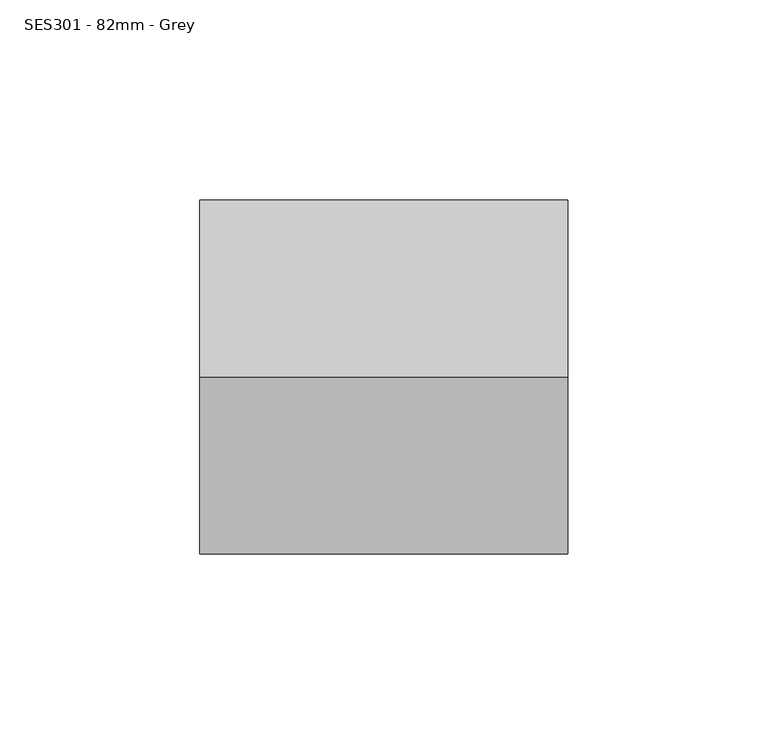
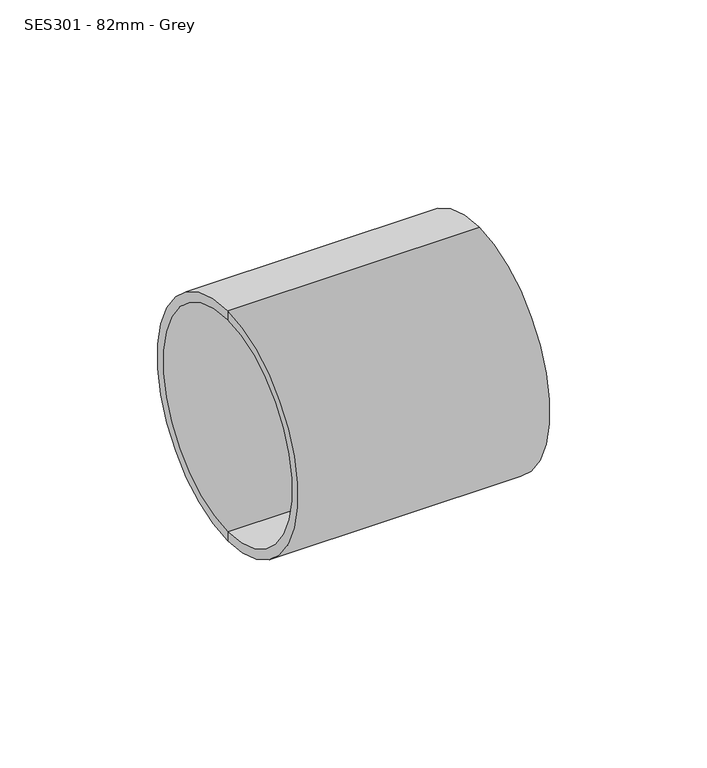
"""IFC4 building model written with IfcOpenShell, lengths in millimetres: pipe fitting geometry, MarleyPlumbingAndDrainage_PipeFitting_DoubleSolventCoupling : SES301 - 82mm - Grey."""

import ifcopenshell
import ifcopenshell.guid

model = None  # the IFC model being written
_history = None  # IfcOwnerHistory: only IFC2X3 demands one
_inside = {}  # id of a spatial element -> (the spatial element, [elements in it])
_under = {}  # id of a project, library or spatial element -> (it, [spatial elements below it])
_declared = {}  # id of a project -> (the project, [libraries it declares])
_typed = {}  # id of a type object -> (the type object, [elements of that type])
_made_of = {}  # id of a material, layer set ... -> (it, [elements and type objects made of it])


def new_model(schema):
    """Start an empty IFC model of exactly this schema.

    Asked for "IFC4X3", IfcOpenShell would pick the latest addendum, in which some entities
    have other attributes; the version numbers below select the first issue.
    IFC2X3 requires an IfcOwnerHistory on every rooted entity: one is made here for all.
    """
    global model, _history
    if schema == "IFC4X3":
        model = ifcopenshell.file(schema_version=(4, 3, 0, 0))
    else:
        model = ifcopenshell.file(schema=schema)
    _inside.clear()
    _under.clear()
    _declared.clear()
    _typed.clear()
    _made_of.clear()
    _history = None
    if model.schema == "IFC2X3":
        org = make("IfcOrganization", Name="unknown")
        user = make(
            "IfcPersonAndOrganization",
            ThePerson=make("IfcPerson", FamilyName="unknown"),
            TheOrganization=org,
        )
        app = make(
            "IfcApplication",
            ApplicationDeveloper=org,
            Version="unknown",
            ApplicationFullName="unknown",
            ApplicationIdentifier="unknown",
        )
        _history = make(
            "IfcOwnerHistory",
            OwningUser=user,
            OwningApplication=app,
            ChangeAction="ADDED",
            CreationDate=0,
        )
    return model


def make(cls, **values):
    """One entity of the class cls with the attributes given. An attribute that is None is left unset."""
    return model.create_entity(
        cls, **{name: value for name, value in values.items() if value is not None}
    )


def rooted(cls, **values):
    """An entity with a GlobalId (a new one), such as an element, a storey or a relation."""
    return make(cls, GlobalId=ifcopenshell.guid.new(), OwnerHistory=_history, **values)


def si_unit(unit_type, name, prefix=None):
    """IfcSIUnit, for example si_unit("LENGTHUNIT", "METRE", prefix="MILLI")."""
    return make("IfcSIUnit", UnitType=unit_type, Prefix=prefix, Name=name)


def assignment(units):
    """IfcUnitAssignment: the units of a project."""
    return None if units is None else make("IfcUnitAssignment", Units=units)


def point(xyz):
    """IfcCartesianPoint."""
    return None if xyz is None else make("IfcCartesianPoint", Coordinates=xyz)


def direction(xyz):
    """IfcDirection."""
    return None if xyz is None else make("IfcDirection", DirectionRatios=xyz)


def frame(location, z_axis=None, x_axis=None):
    """IfcAxis2Placement3D, a coordinate frame: its origin and axes. An axis left out is left unset."""
    return make(
        "IfcAxis2Placement3D",
        Location=point(location),
        Axis=direction(z_axis),
        RefDirection=direction(x_axis),
    )


def origin():
    """The frame at (0, 0, 0) with its axes left unset."""
    return frame((0.0, 0.0, 0.0))


def place(relative_to, where):
    """IfcLocalPlacement: puts the frame where relative to a parent placement (None: the world)."""
    return make(
        "IfcLocalPlacement", PlacementRelTo=relative_to, RelativePlacement=where
    )


def context(
    kind, dimensions, precision=None, world=None, true_north=None, identifier=None
):
    """IfcGeometricRepresentationContext, for example the 3D "Model" context."""
    return make(
        "IfcGeometricRepresentationContext",
        ContextIdentifier=identifier,
        ContextType=kind,
        CoordinateSpaceDimension=dimensions,
        Precision=precision,
        WorldCoordinateSystem=world,
        TrueNorth=true_north,
    )


def project(units=None, contexts=None):
    """IfcProject with its units and contexts."""
    return rooted(
        "IfcProject",
        Name="project",
        RepresentationContexts=contexts,
        UnitsInContext=assignment(units),
    )


def spatial(cls, under=None, at=None, **own):
    """A site, building, storey or space (cls), placed at a placement, below another one or the project."""
    s = rooted(cls, ObjectPlacement=at, **own)
    if under is not None:
        _under.setdefault(under.id(), (under, []))[1].append(s)
    return s


def polyline(points):
    """IfcPolyline through the points."""
    return make("IfcPolyline", Points=[point(p) for p in points])


def circle_curve(where, radius):
    """IfcCircle in the frame where."""
    return make("IfcCircle", Position=where, Radius=radius)


def shape(context_of_items, identifier, shape_type, items):
    """IfcShapeRepresentation: the items that make up one representation, for example the "Body"."""
    return make(
        "IfcShapeRepresentation",
        ContextOfItems=context_of_items,
        RepresentationIdentifier=identifier,
        RepresentationType=shape_type,
        Items=items,
    )


def source(mapping_origin, context_of_items, identifier, shape_type, items):
    """IfcRepresentationMap: a shape defined once, which mapped items show again and again."""
    return make(
        "IfcRepresentationMap",
        MappingOrigin=mapping_origin,
        MappedRepresentation=shape(context_of_items, identifier, shape_type, items),
    )


def transform(
    local_origin,
    x_axis=None,
    y_axis=None,
    z_axis=None,
    scale=None,
    scale2=None,
    scale3=None,
    uniform=True,
):
    """IfcCartesianTransformationOperator3D, or its non-uniform kind. x_axis, y_axis, z_axis: its Axis1, 2, 3."""
    if uniform:
        return make(
            "IfcCartesianTransformationOperator3D",
            Axis1=direction(x_axis),
            Axis2=direction(y_axis),
            LocalOrigin=point(local_origin),
            Scale=scale,
            Axis3=direction(z_axis),
        )
    return make(
        "IfcCartesianTransformationOperator3DnonUniform",
        Axis1=direction(x_axis),
        Axis2=direction(y_axis),
        LocalOrigin=point(local_origin),
        Scale=scale,
        Axis3=direction(z_axis),
        Scale2=scale2,
        Scale3=scale3,
    )


def mapped(mapping_source, mapping_target):
    """IfcMappedItem: shows the shape of a source again, moved by a transform."""
    return make(
        "IfcMappedItem", MappingSource=mapping_source, MappingTarget=mapping_target
    )


def made_of(thing, what):
    """Note that an element or type object is made of a material, layer set ...; save() writes the relation."""
    if what is not None:
        _made_of.setdefault(what.id(), (what, []))[1].append(thing)
    return thing


def element(
    cls,
    number,
    at=None,
    inside=None,
    cuts=None,
    type_object=None,
    material=None,
    context=None,
    identifier="Body",
    shape_type=None,
    held_by="IfcProductDefinitionShape",
    body=None,
    shapes=None,
    **own,
):
    """One element of the class cls, such as IfcWall. Its Tag is "e" and its number.

    at: its placement. inside: the storey or other place that contains it. cuts: it is an
    opening in that element (IfcRelVoidsElement). A single representation is given by context,
    identifier, shape_type and body (its items); several are given by shapes. held_by: the class
    of the entity that holds the representations. save() writes the other relations.
    """
    e = rooted(cls, Tag="e%d" % number, ObjectPlacement=at, **own)
    if body is not None:
        shapes = [shape(context, identifier, shape_type, body)]
    if shapes is not None:
        e.Representation = make(held_by, Representations=shapes)
    if inside is not None:
        _inside.setdefault(inside.id(), (inside, []))[1].append(e)
    if cuts is not None:
        rooted(
            "IfcRelVoidsElement", RelatingBuildingElement=cuts, RelatedOpeningElement=e
        )
    if type_object is not None:
        _typed.setdefault(type_object.id(), (type_object, []))[1].append(e)
    return made_of(e, material)


def aggregate(whole, parts):
    """IfcRelAggregates: a whole, such as a stair, and the parts it consists of."""
    return rooted("IfcRelAggregates", RelatingObject=whole, RelatedObjects=parts)


def save(model, path):
    """Write the relations noted so far, then the file.

    IfcRelAggregates (storeys below a building ...), IfcRelContainedInSpatialStructure (elements
    in a storey), IfcRelDefinesByType, IfcRelAssociatesMaterial and IfcRelDeclares: one each for
    every whole, place, type object, material and project.
    """
    for whole, parts in _under.values():
        aggregate(whole, parts)
    for where, things in _inside.values():
        rooted(
            "IfcRelContainedInSpatialStructure",
            RelatedElements=things,
            RelatingStructure=where,
        )
    for kind, things in _typed.values():
        rooted("IfcRelDefinesByType", RelatedObjects=things, RelatingType=kind)
    for what, things in _made_of.values():
        rooted("IfcRelAssociatesMaterial", RelatedObjects=things, RelatingMaterial=what)
    for by, libraries in _declared.values():
        rooted("IfcRelDeclares", RelatingContext=by, RelatedDefinitions=libraries)
    model.write(path)


def plane_surface(at):
    """IfcPlane: the flat surface through the origin of the frame at, square to its z axis."""
    return make("IfcPlane", Position=at)


def cylinder_surface(at, radius):
    """IfcCylindricalSurface: all points at the distance radius from the z axis of the frame at."""
    return make("IfcCylindricalSurface", Position=at, Radius=radius)


def revolved_surface(curve, axis_point, axis_direction):
    """IfcSurfaceOfRevolution: the curve turned about the line through axis_point along axis_direction."""
    return make(
        "IfcSurfaceOfRevolution",
        SweptCurve=make("IfcArbitraryOpenProfileDef", ProfileType="CURVE", Curve=curve),
        AxisPosition=make("IfcAxis1Placement", Location=point(axis_point), Axis=direction(axis_direction)),
    )


def advanced_brep(points, edges, surfaces, faces):
    """IfcAdvancedBrep: a solid bounded by faces that lie on surfaces and meet in shared edges.

    An edge is (start, end): straight between two places in points (the first is 0);
    or (start, end, curve); or (start, end, curve, False) where it runs against its curve.
    A face is (place in surfaces, loops), or (place, loops, False) where it looks against
    its surface's normal. A loop lists edges by number (the first is 1), with a minus sign
    where the edge is run from its end to its start. The first loop is the outer one.
    """
    corners = [point(p) for p in points]
    vertices = [make("IfcVertexPoint", VertexGeometry=c) for c in corners]
    made = []
    for start, end, *more in edges:
        made.append(
            make(
                "IfcEdgeCurve",
                EdgeStart=vertices[start],
                EdgeEnd=vertices[end],
                EdgeGeometry=more[0] if more else make("IfcPolyline", Points=[corners[start], corners[end]]),
                SameSense=more[1] if len(more) > 1 else True,
            )
        )
    hull = []
    for where, loops, *sense in faces:
        bounds = []
        for j, loop in enumerate(loops):
            ring = [make("IfcOrientedEdge", EdgeElement=made[abs(k) - 1], Orientation=k > 0) for k in loop]
            bounds.append(
                make(
                    "IfcFaceOuterBound" if j == 0 else "IfcFaceBound",
                    Bound=make("IfcEdgeLoop", EdgeList=ring),
                    Orientation=True,
                )
            )
        hull.append(make("IfcAdvancedFace", Bounds=bounds, FaceSurface=surfaces[where], SameSense=sense[0] if sense else True))
    return make("IfcAdvancedBrep", Outer=make("IfcClosedShell", CfsFaces=hull))


def ses301_82mm_grey_1981b395(model_context):
    return source(origin(), model_context, "Body", "AdvancedBrep", [
        advanced_brep(
        [(-60.8253818, 0.0, -44.5), (-60.8253818, 0.0, 44.5), (31.1746182, 0.0, 44.5), (31.1746182, 0.0, -44.5), (31.1746182, 0.0, -41.0), (31.1746182, 0.0, 41.0), (-13.0753818, 0.0, 41.0), (-13.0753818, 0.0, -41.0), (-13.0753818, 0.0, 0.0), (-60.8253818, 0.0, -41.0), (-60.8253818, 0.0, 41.0), (-16.5753818, 0.0, -41.0), (-16.5753818, 0.0, 41.0), (-16.5753818, 0.0, 0.0)],
        [
            (0, 1, circle_curve(frame((-60.8253818, 0.0, 0.0), z_axis=(1.0, 0.0, 0.0), x_axis=(0.0, 0.0, 1.0)), 44.5)),
            (1, 2),
            (2, 3, circle_curve(frame((31.1746182, 0.0, 0.0), z_axis=(-1.0, 0.0, 0.0), x_axis=(0.0, 0.0, 1.0)), 44.5)),
            (3, 0),
            (1, 0, circle_curve(frame((-60.8253818, 0.0, 0.0), z_axis=(1.0, 0.0, 0.0), x_axis=(0.0, 0.0, 1.0)), 44.5)),
            (3, 2, circle_curve(frame((31.1746182, 0.0, 0.0), z_axis=(-1.0, 0.0, 0.0), x_axis=(0.0, 0.0, 1.0)), 44.5)),
            (4, 5, circle_curve(frame((31.1746182, 0.0, 0.0), z_axis=(1.0, 0.0, 0.0), x_axis=(0.0, 0.0, 1.0)), 41.0)),
            (5, 6),
            (6, 7, circle_curve(frame((-13.0753818, 0.0, 0.0), z_axis=(-1.0, 0.0, 0.0), x_axis=(0.0, 0.0, 1.0)), 41.0)),
            (7, 4),
            (5, 4, circle_curve(frame((31.1746182, 0.0, 0.0), z_axis=(1.0, 0.0, 0.0), x_axis=(0.0, 0.0, 1.0)), 41.0)),
            (7, 6, circle_curve(frame((-13.0753818, 0.0, 0.0), z_axis=(-1.0, 0.0, 0.0), x_axis=(0.0, 0.0, 1.0)), 41.0)),
            (2, 5),
            (4, 3),
            (6, 8),
            (8, 7),
            (9, 10, circle_curve(frame((-60.8253818, 0.0, 0.0), z_axis=(1.0, 0.0, 0.0), x_axis=(0.0, 0.0, 1.0)), 41.0)),
            (10, 1),
            (0, 9),
            (10, 9, circle_curve(frame((-60.8253818, 0.0, 0.0), z_axis=(1.0, 0.0, 0.0), x_axis=(0.0, 0.0, 1.0)), 41.0)),
            (11, 12, circle_curve(frame((-16.5753818, 0.0, 0.0), z_axis=(1.0, 0.0, 0.0), x_axis=(0.0, 0.0, 1.0)), 41.0)),
            (12, 10),
            (9, 11),
            (12, 11, circle_curve(frame((-16.5753818, 0.0, 0.0), z_axis=(1.0, 0.0, 0.0), x_axis=(0.0, 0.0, 1.0)), 41.0)),
            (13, 12),
            (11, 13),
        ],
        [
            cylinder_surface(frame((-1198.7325039, 0.0, 0.0), z_axis=(-1.0, 0.0, 0.0), x_axis=(0.0, 0.0, 1.0)), 44.5),
            revolved_surface(polyline([(-13.07538180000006, 0.0, 41.0), (31.17461819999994, 0.0, 41.0)]), (-1198.7325039, 0.0, 0.0), (-1.0, 0.0, 0.0)),
            plane_surface(frame((31.1746182, 0.0, 0.0), z_axis=(1.0, 0.0, 0.0), x_axis=(0.0, 0.0, 1.0))),
            plane_surface(frame((-13.0753818, 0.0, 0.0), z_axis=(1.0, 0.0, 0.0), x_axis=(0.0, 0.0, 1.0))),
            plane_surface(frame((-60.8253818, 0.0, 0.0), z_axis=(-1.0, 0.0, 0.0), x_axis=(0.0, 0.0, 1.0))),
            revolved_surface(polyline([(-60.82538180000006, 0.0, 41.0), (-16.57538180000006, 0.0, 41.0)]), (-1198.7325039, 0.0, 0.0), (-1.0, 0.0, 0.0)),
            plane_surface(frame((-16.5753818, 0.0, 0.0), z_axis=(-1.0, 0.0, 0.0), x_axis=(0.0, 0.0, 1.0))),
        ],
        [
            (0, [[1, 2, 3, 4]]),
            (0, [[5, -4, 6, -2]]),
            (1, [[7, 8, 9, 10]]),
            (1, [[11, -10, 12, -8]]),
            (2, [[-3, 13, -7, 14]]),
            (2, [[-6, -14, -11, -13]]),
            (3, [[-9, 15, 16]]),
            (3, [[-12, -16, -15]]),
            (4, [[17, 18, -1, 19]]),
            (4, [[20, -19, -5, -18]]),
            (5, [[21, 22, -17, 23]]),
            (5, [[24, -23, -20, -22]]),
            (6, [[25, -21, 26]]),
            (6, [[-26, -24, -25]]),
        ],
    ),
    ])


if __name__ == "__main__":
    model = new_model("IFC4")
    model_context = context("Model", 3, world=origin())
    ifc_project = project(units=[si_unit("LENGTHUNIT", "METRE", prefix="MILLI")], contexts=[model_context])
    site = spatial("IfcSite", under=ifc_project)
    building = spatial("IfcBuilding", under=site)
    placement = place(None, origin())
    ses301_82mm_grey_shape = ses301_82mm_grey_1981b395(model_context)
    element("IfcPipeFitting", 1, ObjectType="MarleyPlumbingAndDrainage_PipeFitting_DoubleSolventCoupling : SES301 - 82mm - Grey", at=placement, inside=building, context=model_context, shape_type="MappedRepresentation", body=[
        mapped(ses301_82mm_grey_shape, transform((0.0, 0.0, 0.0), x_axis=(1.0, 0.0, 0.0), y_axis=(0.0, 1.0, 0.0), z_axis=(0.0, 0.0, 1.0))),
    ])
    save(model, "model.ifc")
